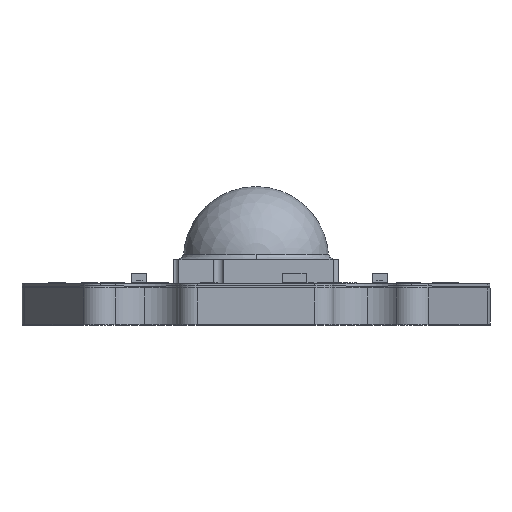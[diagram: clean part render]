
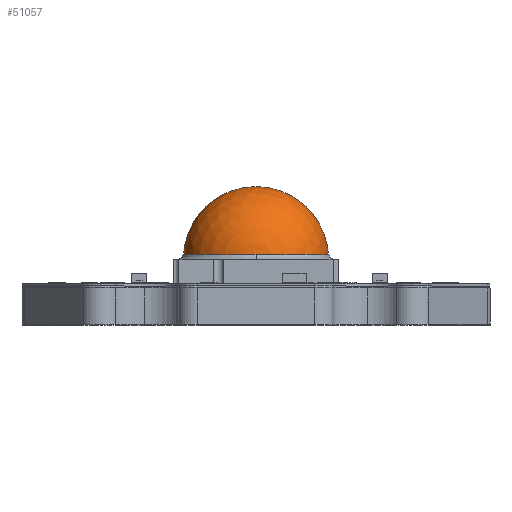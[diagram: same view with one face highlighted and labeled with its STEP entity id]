
A CAD part, top view. The second image highlights one B-rep face of the part: STEP entity #51057.
In plain terms, the highlighted spherical face has radius 3.1 mm.
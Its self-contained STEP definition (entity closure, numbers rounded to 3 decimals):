
#17647 = ORIENTED_EDGE ( 'NONE', *, *, #51997, .F. ) ;
#17648 = ORIENTED_EDGE ( 'NONE', *, *, #52005, .T. ) ;
#39979 = AXIS2_PLACEMENT_3D ( 'NONE', #40088, #40089, #40090 ) ;
#40063 = SPHERICAL_SURFACE ( 'NONE', #39979, 3.1 ) ;
#40078 = FACE_OUTER_BOUND ( 'NONE', #49388, .T. ) ;
#40088 = CARTESIAN_POINT ( 'NONE',  ( 0., 2.803, 0. ) ) ;
#40089 = DIRECTION ( 'NONE',  ( 0., 0., 1. ) ) ;
#40090 = DIRECTION ( 'NONE',  ( 0., 1., 0. ) ) ;
#41261 = CIRCLE ( 'NONE', #41263, 3.1 ) ;
#41263 = AXIS2_PLACEMENT_3D ( 'NONE', #43066, #43067, #43068 ) ;
#41274 = CIRCLE ( 'NONE', #41277, 3.1 ) ;
#41277 = AXIS2_PLACEMENT_3D ( 'NONE', #43089, #43090, #43091 ) ;
#43066 = CARTESIAN_POINT ( 'NONE',  ( 0., 2.803, 0. ) ) ;
#43067 = DIRECTION ( 'NONE',  ( 0., 0., -1. ) ) ;
#43068 = DIRECTION ( 'NONE',  ( -1., 0., 0. ) ) ;
#43089 = CARTESIAN_POINT ( 'NONE',  ( 0., 2.803, 0. ) ) ;
#43090 = DIRECTION ( 'NONE',  ( 0., 1., 0. ) ) ;
#43091 = DIRECTION ( 'NONE',  ( 0., 0., 1. ) ) ;
#44663 = CARTESIAN_POINT ( 'NONE',  ( 3.1, 2.803, 0. ) ) ;
#44666 = CARTESIAN_POINT ( 'NONE',  ( -3.1, 2.803, 0. ) ) ;
#49388 = EDGE_LOOP ( 'NONE', ( #17647, #17648 ) ) ;
#51057 = ADVANCED_FACE ( 'NONE', ( #40078 ), #40063, .T. ) ;
#51997 = EDGE_CURVE ( 'NONE', #53028, #53025, #41261, .T. ) ;
#52005 = EDGE_CURVE ( 'NONE', #53028, #53025, #41274, .T. ) ;
#53025 = VERTEX_POINT ( 'NONE', #44663 ) ;
#53028 = VERTEX_POINT ( 'NONE', #44666 ) ;
